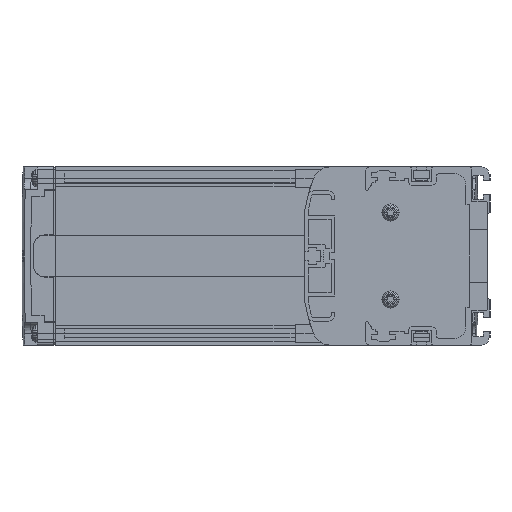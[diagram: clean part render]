
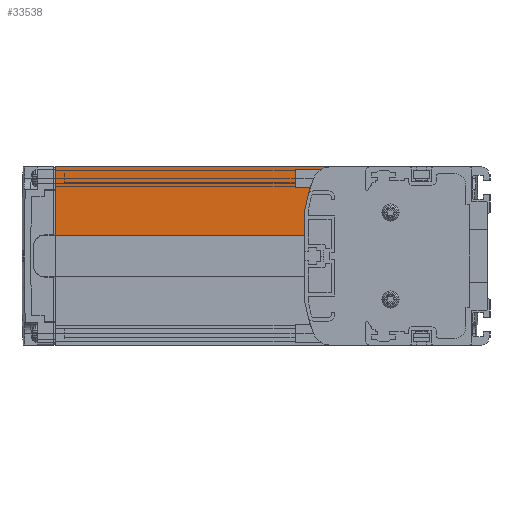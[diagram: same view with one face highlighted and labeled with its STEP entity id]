
A CAD part, left-side view. The second image highlights one B-rep face of the part: STEP entity #33538.
In plain terms, the highlighted planar face has unit normal (-1, 0, 0).
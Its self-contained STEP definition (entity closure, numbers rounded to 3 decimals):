
#5773=CARTESIAN_POINT('',(3.,79.,19.823));
#5774=DIRECTION('',(1.,0.,0.));
#5775=DIRECTION('',(0.,1.,0.));
#5776=AXIS2_PLACEMENT_3D('',#5773,#5774,#5775);
#5794=DIRECTION('',(0.,0.,-1.));
#5795=VECTOR('',#5794,10.723);
#5796=CARTESIAN_POINT('',(3.,81.,19.823));
#5797=LINE('',#5796,#5795);
#6178=CARTESIAN_POINT('',(3.,2.235,6.));
#6179=DIRECTION('',(1.,0.,0.));
#6180=DIRECTION('',(0.,0.984,0.177));
#6181=AXIS2_PLACEMENT_3D('',#6178,#6179,#6180);
#6191=DIRECTION('',(0.,0.,-1.));
#6192=VECTOR('',#6191,29.9);
#6193=CARTESIAN_POINT('',(3.,190.,39.));
#6194=LINE('',#6193,#6192);
#8482=DIRECTION('',(0.,-1.,0.));
#8483=VECTOR('',#8482,109.);
#8484=CARTESIAN_POINT('',(3.,190.,9.1));
#8485=LINE('',#8484,#8483);
#11274=DIRECTION('',(0.,-1.,0.));
#11275=VECTOR('',#11274,120.245);
#11276=CARTESIAN_POINT('',(3.,190.,39.));
#11277=LINE('',#11276,#11275);
#12349=CARTESIAN_POINT('',(3.,69.755,31.));
#12350=DIRECTION('',(-1.,0.,0.));
#12351=DIRECTION('',(0.,0.,1.));
#12352=AXIS2_PLACEMENT_3D('',#12349,#12350,#12351);
#20070=CARTESIAN_POINT('',(3.,190.,39.));
#20071=VERTEX_POINT('',#20070);
#20072=CARTESIAN_POINT('',(3.,190.,9.1));
#20073=VERTEX_POINT('',#20072);
#24627=CARTESIAN_POINT('',(3.,81.,9.1));
#24628=VERTEX_POINT('',#24627);
#24669=CARTESIAN_POINT('',(3.,69.755,39.));
#24670=CARTESIAN_POINT('',(3.,77.257,33.778));
#24671=VERTEX_POINT('',#24669);
#24672=VERTEX_POINT('',#24670);
#24673=CARTESIAN_POINT('',(3.,80.968,20.177));
#24674=VERTEX_POINT('',#24673);
#24675=CARTESIAN_POINT('',(3.,81.,19.823));
#24676=VERTEX_POINT('',#24675);
#33520=CARTESIAN_POINT('',(3.,105.,24.05));
#33521=DIRECTION('',(1.,0.,0.));
#33522=DIRECTION('',(0.,0.,1.));
#33523=AXIS2_PLACEMENT_3D('',#33520,#33521,#33522);
#33524=PLANE('',#33523);
#33526=ORIENTED_EDGE('',*,*,#33525,.T.);
#33527=ORIENTED_EDGE('',*,*,#33472,.F.);
#33528=ORIENTED_EDGE('',*,*,#32901,.F.);
#33529=ORIENTED_EDGE('',*,*,#32919,.T.);
#33531=ORIENTED_EDGE('',*,*,#33530,.F.);
#33533=ORIENTED_EDGE('',*,*,#33532,.F.);
#33535=ORIENTED_EDGE('',*,*,#33534,.T.);
#33536=EDGE_LOOP('',(#33526,#33527,#33528,#33529,#33531,#33533,#33535));
#33537=FACE_OUTER_BOUND('',#33536,.F.);
#33538=ADVANCED_FACE('',(#33537),#33524,.F.);
#5777=CIRCLE('',#5776,2.);
#6182=CIRCLE('',#6181,80.);
#12353=CIRCLE('',#12352,8.);
#32901=EDGE_CURVE('',#24676,#24674,#5777,.T.);
#32919=EDGE_CURVE('',#24676,#24628,#5797,.T.);
#33472=EDGE_CURVE('',#24674,#24672,#6182,.T.);
#33525=EDGE_CURVE('',#24671,#24672,#12353,.T.);
#33530=EDGE_CURVE('',#20073,#24628,#8485,.T.);
#33532=EDGE_CURVE('',#20071,#20073,#6194,.T.);
#33534=EDGE_CURVE('',#20071,#24671,#11277,.T.);
